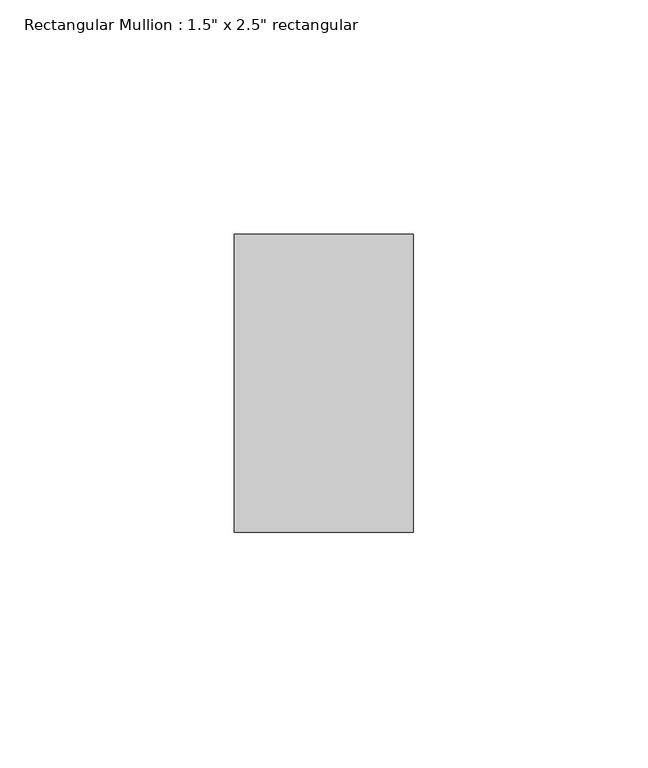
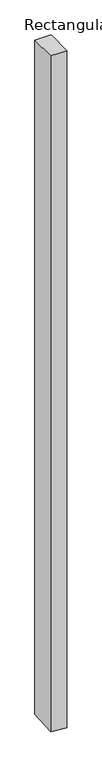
"""IFC4 building model written with IfcOpenShell, lengths in millimetres: member geometry."""

from ifc_helpers import new_model, si_unit, origin, place, context, project, spatial, faceted_brep, source, transform, mapped, element, save


def member_fc53ac5e(model_context):
    return source(origin(), model_context, "Body", "Brep", [
        faceted_brep([(0.0, 31.75, 0.0), (-38.1, 31.75, 0.0), (-38.1, -31.75, 0.0), (0.0, -31.75, 0.0), (0.0, 31.75, -1664.7751224), (-38.1, 31.75, -1662.003397), (-38.1, -31.75, -1666.6473723), (0.0, -31.75, -1669.4190978)], [[[0, 1, 2, 3]], [[1, 0, 4, 5]], [[2, 1, 5, 6]], [[3, 2, 6, 7]], [[0, 3, 7, 4]], [[4, 7, 6, 5]]]),
    ])


if __name__ == "__main__":
    model = new_model("IFC4")
    model_context = context("Model", 3, world=origin())
    ifc_project = project(units=[si_unit("LENGTHUNIT", "METRE", prefix="MILLI")], contexts=[model_context])
    site = spatial("IfcSite", under=ifc_project)
    building = spatial("IfcBuilding", under=site)
    placement = place(None, origin())
    member_shape = member_fc53ac5e(model_context)
    element("IfcMember", 1, ObjectType="Rectangular Mullion : 1.5\" x 2.5\" rectangular", at=placement, inside=building, context=model_context, shape_type="MappedRepresentation", body=[
        mapped(member_shape, transform((0.0, 0.0, 0.0), x_axis=(1.0, 0.0, 0.0), y_axis=(0.0, 1.0, 0.0), z_axis=(0.0, 0.0, 1.0))),
    ])
    save(model, "model.ifc")
